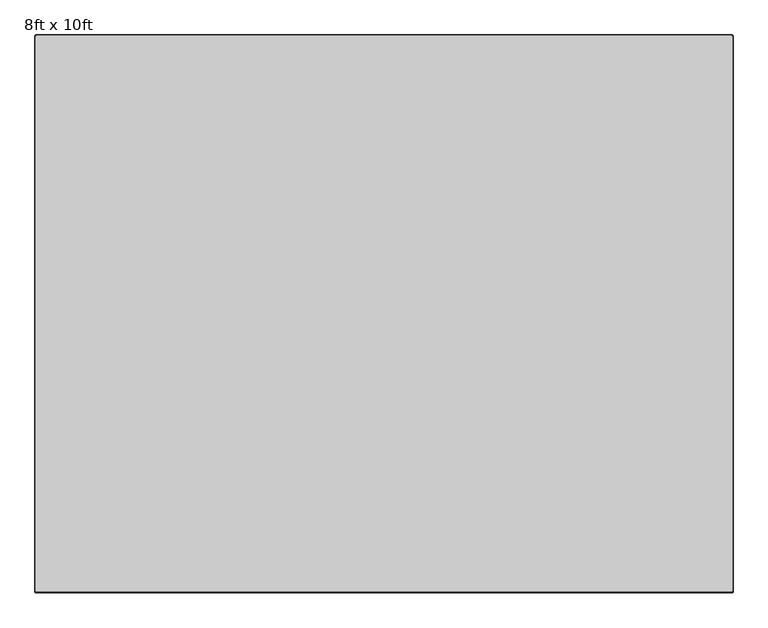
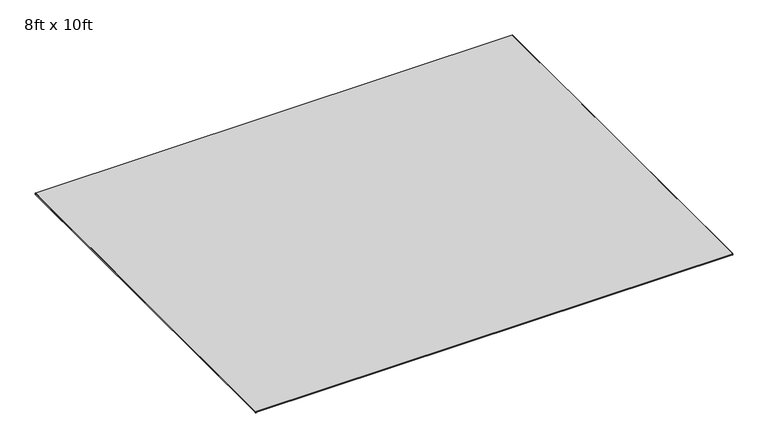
"""IFC4 building model written with IfcOpenShell, lengths in millimetres: furniture geometry, Coalesse_AM_Accessory_Rug_Nanimarquina_Diagonal : 8ft x 10ft."""

from ifc_helpers import new_model, si_unit, frame, origin, place, context, project, spatial, polyline, circle_curve, source, transform, mapped, element, save
from ifc_brep_helpers import plane_surface, cylinder_surface, revolved_surface, advanced_brep


def furniture_8ft_x_10ft_a33dcf98(model_context):
    return source(origin(), model_context, "Body", "AdvancedBrep", [
        advanced_brep(
        [(-658.8809829, 798.9249977, 6.9850002), (-661.4265124, 796.3794681, 6.9850002), (-661.4265124, -1631.8550023, 6.9850002), (-658.8865124, -1634.3950023, 6.9850002), (2378.9533713, -1634.3950023, 6.9850002), (2381.4933713, -1631.8550023, 6.9850002), (2381.4933713, 796.3849977, 6.9850002), (2378.9533713, 798.9249977, 6.9850002), (-663.9665124, 796.3794681, 4.4450002), (-658.8809829, 801.4649977, 4.4450002), (-658.8809829, 801.4649977, 0.0), (-663.9665124, 796.3794681, 0.0), (-663.9665124, -1631.8550023, 0.0), (-663.9665124, -1631.8550023, 4.4450002), (-658.8865124, -1636.9350023, 0.0), (-658.8865124, -1636.9350023, 4.4450002), (2378.9533713, -1636.9350023, 0.0), (2378.9533713, -1636.9350023, 4.4450002), (2384.0333713, -1631.8550023, 0.0), (2384.0333713, -1631.8550023, 4.4450002), (2384.0333713, 796.3849977, 0.0), (2384.0333713, 796.3849977, 4.4450002), (2378.9533713, 801.4649977, 0.0), (2378.9533713, 801.4649977, 4.4450002)],
        [
            (0, 1, circle_curve(frame((-658.8809829, 796.3794681, 6.9850002), z_axis=(0.0, 0.0, 1.0), x_axis=(0.0, 1.0, 0.0)), 2.5455296)),
            (1, 2),
            (2, 3, circle_curve(frame((-658.8865124, -1631.8550023, 6.9850002), z_axis=(0.0, 0.0, 1.0), x_axis=(-1.0, 0.0, 0.0)), 2.54)),
            (3, 4),
            (4, 5, circle_curve(frame((2378.9533713, -1631.8550023, 6.9850002), z_axis=(0.0, 0.0, 1.0), x_axis=(0.0, -1.0, 0.0)), 2.54)),
            (5, 6),
            (6, 7, circle_curve(frame((2378.9533713, 796.3849977, 6.9850002), z_axis=(0.0, 0.0, 1.0), x_axis=(1.0, 0.0, 0.0)), 2.54)),
            (7, 0),
            (8, 9, circle_curve(frame((-658.8809829, 796.3794681, 4.4450002), z_axis=(0.0, 0.0, -1.0), x_axis=(0.0, 1.0, 0.0)), 5.0855296)),
            (9, 10),
            (10, 11, circle_curve(frame((-658.8809829, 796.3794681, 0.0), z_axis=(0.0, 0.0, 1.0), x_axis=(0.0, 1.0, 0.0)), 5.0855296)),
            (11, 8),
            (8, 1),
            (0, 9),
            (11, 12),
            (12, 13),
            (13, 8),
            (13, 2),
            (12, 14, circle_curve(frame((-658.8865124, -1631.8550023, 0.0), z_axis=(0.0, 0.0, 1.0), x_axis=(-1.0, 0.0, 0.0)), 5.08)),
            (14, 15),
            (15, 13, circle_curve(frame((-658.8865124, -1631.8550023, 4.4450002), z_axis=(0.0, 0.0, -1.0), x_axis=(-1.0, 0.0, 0.0)), 5.08)),
            (15, 3),
            (14, 16),
            (16, 17),
            (17, 15),
            (17, 4),
            (16, 18, circle_curve(frame((2378.9533713, -1631.8550023, 0.0), z_axis=(0.0, 0.0, 1.0), x_axis=(0.0, -1.0, 0.0)), 5.08)),
            (18, 19),
            (19, 17, circle_curve(frame((2378.9533713, -1631.8550023, 4.4450002), z_axis=(0.0, 0.0, -1.0), x_axis=(0.0, -1.0, 0.0)), 5.08)),
            (19, 5),
            (18, 20),
            (20, 21),
            (21, 19),
            (21, 6),
            (20, 22, circle_curve(frame((2378.9533713, 796.3849977, 0.0), z_axis=(0.0, 0.0, 1.0), x_axis=(1.0, 0.0, 0.0)), 5.08)),
            (22, 23),
            (23, 21, circle_curve(frame((2378.9533713, 796.3849977, 4.4450002), z_axis=(0.0, 0.0, -1.0), x_axis=(1.0, 0.0, 0.0)), 5.08)),
            (23, 7),
            (10, 22),
            (9, 23),
        ],
        [
            plane_surface(frame((-658.8809829, 798.9249977, 6.9850002), z_axis=(0.0, 0.0, 1.0), x_axis=(-1.0, 0.0, 0.0))),
            cylinder_surface(frame((-658.8809829, 796.3794681, 0.0), z_axis=(0.0, 0.0, 1.0), x_axis=(0.0, 1.0, 0.0)), 5.0855296),
            revolved_surface(polyline([(-658.8809829, 801.4649977, 4.4450002), (-658.8809829, 798.9249977, 6.9850002)]), (-658.8809829, 796.3794681, 0.0), (0.0, 0.0, 1.0)),
            plane_surface(frame((-663.9665124, 796.3794681, 0.0), z_axis=(-1.0, 0.0, 0.0), x_axis=(0.0, -1.0, 0.0))),
            plane_surface(frame((-663.9665124, 796.3794681, 4.4450002), z_axis=(-0.7071067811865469, 0.0, 0.7071067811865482), x_axis=(0.0, -1.0, 0.0))),
            cylinder_surface(frame((-658.8865124, -1631.8550023, 0.0), z_axis=(0.0, 0.0, 1.0), x_axis=(-1.0, 0.0, 0.0)), 5.08),
            revolved_surface(polyline([(-663.9665124, -1631.8550023, 4.4450002), (-661.4265124, -1631.8550023, 6.9850002)]), (-658.8865124, -1631.8550023, 0.0), (0.0, 0.0, 1.0)),
            plane_surface(frame((-658.8865124, -1636.9350023, 0.0), z_axis=(0.0, -1.0, 0.0), x_axis=(1.0, 0.0, 0.0))),
            plane_surface(frame((-658.8865124, -1636.9350023, 4.4450002), z_axis=(0.0, -0.7071067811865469, 0.7071067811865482), x_axis=(1.0, 0.0, 0.0))),
            cylinder_surface(frame((2378.9533713, -1631.8550023, 0.0), z_axis=(0.0, 0.0, 1.0), x_axis=(0.0, -1.0, 0.0)), 5.08),
            revolved_surface(polyline([(2378.9533713, -1636.9350023, 4.4450002), (2378.9533713, -1634.3950023, 6.9850002)]), (2378.9533713, -1631.8550023, 0.0), (0.0, 0.0, 1.0)),
            plane_surface(frame((2384.0333713, -1631.8550023, 0.0), z_axis=(1.0, 0.0, 0.0), x_axis=(0.0, 1.0, 0.0))),
            plane_surface(frame((2384.0333713, -1631.8550023, 4.4450002), z_axis=(0.7071067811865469, 0.0, 0.7071067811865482), x_axis=(0.0, 1.0, 0.0))),
            cylinder_surface(frame((2378.9533713, 796.3849977, 0.0), z_axis=(0.0, 0.0, 1.0), x_axis=(1.0, 0.0, 0.0)), 5.08),
            revolved_surface(polyline([(2384.0333713, 796.3849977, 4.4450002), (2381.4933713, 796.3849977, 6.9850002)]), (2378.9533713, 796.3849977, 0.0), (0.0, 0.0, 1.0)),
            plane_surface(frame((2378.9533713, 798.9249977, 0.0), z_axis=(0.0, 0.0, -1.0), x_axis=(-1.0, 0.0, 0.0))),
            plane_surface(frame((2378.9533713, 801.4649977, 0.0), z_axis=(0.0, 1.0, 0.0), x_axis=(-1.0, 0.0, 0.0))),
            plane_surface(frame((2378.9533713, 801.4649977, 4.4450002), z_axis=(0.0, 0.7071067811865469, 0.7071067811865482), x_axis=(-1.0, 0.0, 0.0))),
        ],
        [
            (0, [[1, 2, 3, 4, 5, 6, 7, 8]]),
            (1, [[9, 10, 11, 12]]),
            (2, [[-9, 13, -1, 14]]),
            (3, [[-12, 15, 16, 17]]),
            (4, [[-13, -17, 18, -2]]),
            (5, [[-16, 19, 20, 21]]),
            (6, [[-18, -21, 22, -3]]),
            (7, [[-20, 23, 24, 25]]),
            (8, [[-22, -25, 26, -4]]),
            (9, [[-24, 27, 28, 29]]),
            (10, [[-26, -29, 30, -5]]),
            (11, [[-28, 31, 32, 33]]),
            (12, [[-30, -33, 34, -6]]),
            (13, [[-32, 35, 36, 37]]),
            (14, [[-34, -37, 38, -7]]),
            (15, [[-11, 39, -35, -31, -27, -23, -19, -15]]),
            (16, [[-10, 40, -36, -39]]),
            (17, [[-14, -8, -38, -40]]),
        ],
    ),
    ])


if __name__ == "__main__":
    model = new_model("IFC4")
    model_context = context("Model", 3, world=origin())
    ifc_project = project(units=[si_unit("LENGTHUNIT", "METRE", prefix="MILLI")], contexts=[model_context])
    site = spatial("IfcSite", under=ifc_project)
    building = spatial("IfcBuilding", under=site)
    placement = place(None, origin())
    furniture_8ft_x_10ft_shape = furniture_8ft_x_10ft_a33dcf98(model_context)
    element("IfcFurniture", 1, ObjectType="Coalesse_AM_Accessory_Rug_Nanimarquina_Diagonal : 8ft x 10ft", at=placement, inside=building, context=model_context, shape_type="MappedRepresentation", body=[
        mapped(furniture_8ft_x_10ft_shape, transform((0.0, 0.0, 0.0), x_axis=(1.0, 0.0, 0.0), y_axis=(0.0, 1.0, 0.0), z_axis=(0.0, 0.0, 1.0))),
    ])
    save(model, "model.ifc")
